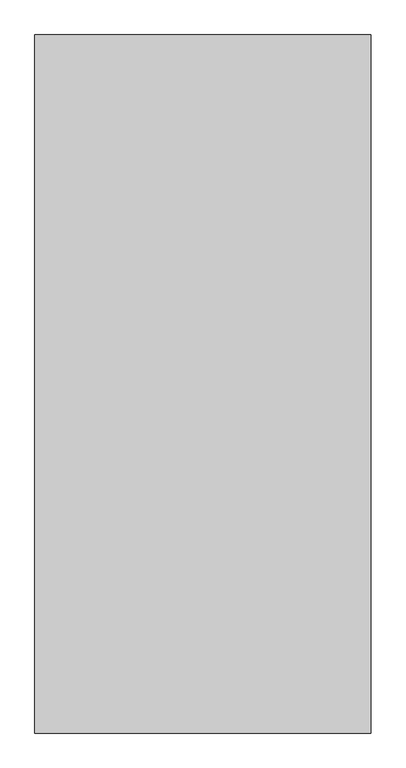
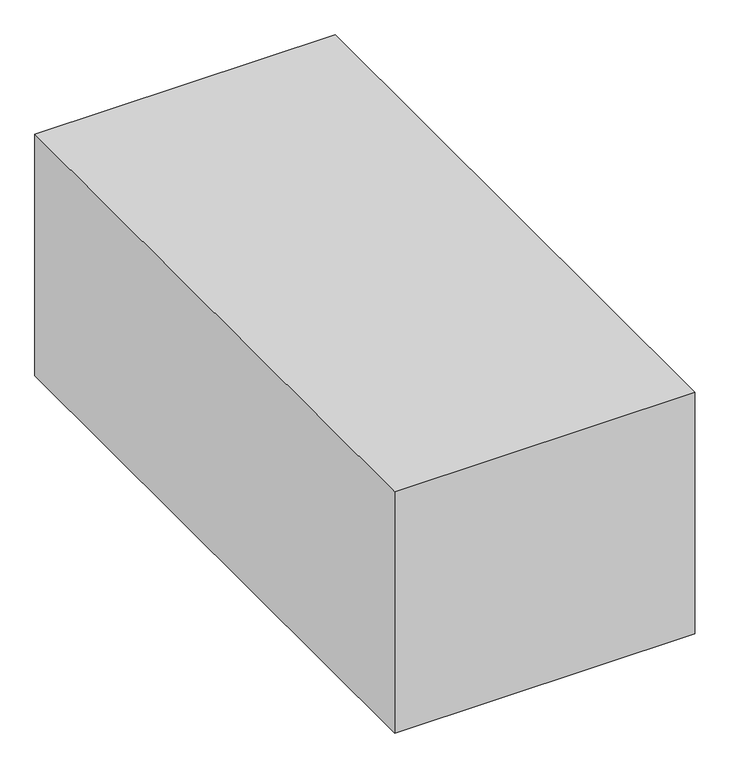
"""IFC4 building model written with IfcOpenShell, lengths in millimetres: proxy geometry, CU - Trane - 15-20 Ton : CU - Trane - 15-20 Ton."""

import ifcopenshell
import ifcopenshell.guid

model = None  # the IFC model being written
_history = None  # IfcOwnerHistory: only IFC2X3 demands one
_inside = {}  # id of a spatial element -> (the spatial element, [elements in it])
_under = {}  # id of a project, library or spatial element -> (it, [spatial elements below it])
_declared = {}  # id of a project -> (the project, [libraries it declares])
_typed = {}  # id of a type object -> (the type object, [elements of that type])
_made_of = {}  # id of a material, layer set ... -> (it, [elements and type objects made of it])


def new_model(schema):
    """Start an empty IFC model of exactly this schema.

    Asked for "IFC4X3", IfcOpenShell would pick the latest addendum, in which some entities
    have other attributes; the version numbers below select the first issue.
    IFC2X3 requires an IfcOwnerHistory on every rooted entity: one is made here for all.
    """
    global model, _history
    if schema == "IFC4X3":
        model = ifcopenshell.file(schema_version=(4, 3, 0, 0))
    else:
        model = ifcopenshell.file(schema=schema)
    _inside.clear()
    _under.clear()
    _declared.clear()
    _typed.clear()
    _made_of.clear()
    _history = None
    if model.schema == "IFC2X3":
        org = make("IfcOrganization", Name="unknown")
        user = make(
            "IfcPersonAndOrganization",
            ThePerson=make("IfcPerson", FamilyName="unknown"),
            TheOrganization=org,
        )
        app = make(
            "IfcApplication",
            ApplicationDeveloper=org,
            Version="unknown",
            ApplicationFullName="unknown",
            ApplicationIdentifier="unknown",
        )
        _history = make(
            "IfcOwnerHistory",
            OwningUser=user,
            OwningApplication=app,
            ChangeAction="ADDED",
            CreationDate=0,
        )
    return model


def make(cls, **values):
    """One entity of the class cls with the attributes given. An attribute that is None is left unset."""
    return model.create_entity(
        cls, **{name: value for name, value in values.items() if value is not None}
    )


def rooted(cls, **values):
    """An entity with a GlobalId (a new one), such as an element, a storey or a relation."""
    return make(cls, GlobalId=ifcopenshell.guid.new(), OwnerHistory=_history, **values)


def si_unit(unit_type, name, prefix=None):
    """IfcSIUnit, for example si_unit("LENGTHUNIT", "METRE", prefix="MILLI")."""
    return make("IfcSIUnit", UnitType=unit_type, Prefix=prefix, Name=name)


def assignment(units):
    """IfcUnitAssignment: the units of a project."""
    return None if units is None else make("IfcUnitAssignment", Units=units)


def point(xyz):
    """IfcCartesianPoint."""
    return None if xyz is None else make("IfcCartesianPoint", Coordinates=xyz)


def direction(xyz):
    """IfcDirection."""
    return None if xyz is None else make("IfcDirection", DirectionRatios=xyz)


def frame(location, z_axis=None, x_axis=None):
    """IfcAxis2Placement3D, a coordinate frame: its origin and axes. An axis left out is left unset."""
    return make(
        "IfcAxis2Placement3D",
        Location=point(location),
        Axis=direction(z_axis),
        RefDirection=direction(x_axis),
    )


def origin():
    """The frame at (0, 0, 0) with its axes left unset."""
    return frame((0.0, 0.0, 0.0))


def origin_with_axes():
    """The frame at (0, 0, 0) with the z axis (0, 0, 1) and the x axis (1, 0, 0) written out."""
    return frame((0.0, 0.0, 0.0), z_axis=(0.0, 0.0, 1.0), x_axis=(1.0, 0.0, 0.0))


def place(relative_to, where):
    """IfcLocalPlacement: puts the frame where relative to a parent placement (None: the world)."""
    return make(
        "IfcLocalPlacement", PlacementRelTo=relative_to, RelativePlacement=where
    )


def context(
    kind, dimensions, precision=None, world=None, true_north=None, identifier=None
):
    """IfcGeometricRepresentationContext, for example the 3D "Model" context."""
    return make(
        "IfcGeometricRepresentationContext",
        ContextIdentifier=identifier,
        ContextType=kind,
        CoordinateSpaceDimension=dimensions,
        Precision=precision,
        WorldCoordinateSystem=world,
        TrueNorth=true_north,
    )


def project(units=None, contexts=None):
    """IfcProject with its units and contexts."""
    return rooted(
        "IfcProject",
        Name="project",
        RepresentationContexts=contexts,
        UnitsInContext=assignment(units),
    )


def spatial(cls, under=None, at=None, **own):
    """A site, building, storey or space (cls), placed at a placement, below another one or the project."""
    s = rooted(cls, ObjectPlacement=at, **own)
    if under is not None:
        _under.setdefault(under.id(), (under, []))[1].append(s)
    return s


def polyline(points):
    """IfcPolyline through the points."""
    return make("IfcPolyline", Points=[point(p) for p in points])


def outline(outer, holes=None, kind="AREA"):
    """IfcArbitraryClosedProfileDef: a profile drawn as a closed curve; with holes, ...WithVoids."""
    if holes is None:
        return make("IfcArbitraryClosedProfileDef", ProfileType=kind, OuterCurve=outer)
    return make(
        "IfcArbitraryProfileDefWithVoids",
        ProfileType=kind,
        OuterCurve=outer,
        InnerCurves=holes,
    )


def extrude(swept, where, along, depth):
    """IfcExtrudedAreaSolid: the profile swept, set in the frame where, extruded along a direction by depth."""
    return make(
        "IfcExtrudedAreaSolid",
        SweptArea=swept,
        Position=where,
        ExtrudedDirection=direction(along),
        Depth=depth,
    )


def shape(context_of_items, identifier, shape_type, items):
    """IfcShapeRepresentation: the items that make up one representation, for example the "Body"."""
    return make(
        "IfcShapeRepresentation",
        ContextOfItems=context_of_items,
        RepresentationIdentifier=identifier,
        RepresentationType=shape_type,
        Items=items,
    )


def source(mapping_origin, context_of_items, identifier, shape_type, items):
    """IfcRepresentationMap: a shape defined once, which mapped items show again and again."""
    return make(
        "IfcRepresentationMap",
        MappingOrigin=mapping_origin,
        MappedRepresentation=shape(context_of_items, identifier, shape_type, items),
    )


def transform(
    local_origin,
    x_axis=None,
    y_axis=None,
    z_axis=None,
    scale=None,
    scale2=None,
    scale3=None,
    uniform=True,
):
    """IfcCartesianTransformationOperator3D, or its non-uniform kind. x_axis, y_axis, z_axis: its Axis1, 2, 3."""
    if uniform:
        return make(
            "IfcCartesianTransformationOperator3D",
            Axis1=direction(x_axis),
            Axis2=direction(y_axis),
            LocalOrigin=point(local_origin),
            Scale=scale,
            Axis3=direction(z_axis),
        )
    return make(
        "IfcCartesianTransformationOperator3DnonUniform",
        Axis1=direction(x_axis),
        Axis2=direction(y_axis),
        LocalOrigin=point(local_origin),
        Scale=scale,
        Axis3=direction(z_axis),
        Scale2=scale2,
        Scale3=scale3,
    )


def mapped(mapping_source, mapping_target):
    """IfcMappedItem: shows the shape of a source again, moved by a transform."""
    return make(
        "IfcMappedItem", MappingSource=mapping_source, MappingTarget=mapping_target
    )


def made_of(thing, what):
    """Note that an element or type object is made of a material, layer set ...; save() writes the relation."""
    if what is not None:
        _made_of.setdefault(what.id(), (what, []))[1].append(thing)
    return thing


def element(
    cls,
    number,
    at=None,
    inside=None,
    cuts=None,
    type_object=None,
    material=None,
    context=None,
    identifier="Body",
    shape_type=None,
    held_by="IfcProductDefinitionShape",
    body=None,
    shapes=None,
    **own,
):
    """One element of the class cls, such as IfcWall. Its Tag is "e" and its number.

    at: its placement. inside: the storey or other place that contains it. cuts: it is an
    opening in that element (IfcRelVoidsElement). A single representation is given by context,
    identifier, shape_type and body (its items); several are given by shapes. held_by: the class
    of the entity that holds the representations. save() writes the other relations.
    """
    e = rooted(cls, Tag="e%d" % number, ObjectPlacement=at, **own)
    if body is not None:
        shapes = [shape(context, identifier, shape_type, body)]
    if shapes is not None:
        e.Representation = make(held_by, Representations=shapes)
    if inside is not None:
        _inside.setdefault(inside.id(), (inside, []))[1].append(e)
    if cuts is not None:
        rooted(
            "IfcRelVoidsElement", RelatingBuildingElement=cuts, RelatedOpeningElement=e
        )
    if type_object is not None:
        _typed.setdefault(type_object.id(), (type_object, []))[1].append(e)
    return made_of(e, material)


def aggregate(whole, parts):
    """IfcRelAggregates: a whole, such as a stair, and the parts it consists of."""
    return rooted("IfcRelAggregates", RelatingObject=whole, RelatedObjects=parts)


def save(model, path):
    """Write the relations noted so far, then the file.

    IfcRelAggregates (storeys below a building ...), IfcRelContainedInSpatialStructure (elements
    in a storey), IfcRelDefinesByType, IfcRelAssociatesMaterial and IfcRelDeclares: one each for
    every whole, place, type object, material and project.
    """
    for whole, parts in _under.values():
        aggregate(whole, parts)
    for where, things in _inside.values():
        rooted(
            "IfcRelContainedInSpatialStructure",
            RelatedElements=things,
            RelatingStructure=where,
        )
    for kind, things in _typed.values():
        rooted("IfcRelDefinesByType", RelatedObjects=things, RelatingType=kind)
    for what, things in _made_of.values():
        rooted("IfcRelAssociatesMaterial", RelatedObjects=things, RelatingMaterial=what)
    for by, libraries in _declared.values():
        rooted("IfcRelDeclares", RelatingContext=by, RelatedDefinitions=libraries)
    model.write(path)


def mechanical_equipment_35da103f(model_context):
    return source(origin(), model_context, "Body", "SweptSolid", [
        extrude(outline(polyline([(584.2, 1212.05625), (584.2, -1212.05625), (-584.2, -1212.05625), (-584.2, 1212.05625), (584.2, 1212.05625)])), origin_with_axes(), (0.0, 0.0, 1.0), 993.775),
    ])


if __name__ == "__main__":
    model = new_model("IFC4")
    model_context = context("Model", 3, world=origin())
    ifc_project = project(units=[si_unit("LENGTHUNIT", "METRE", prefix="MILLI")], contexts=[model_context])
    site = spatial("IfcSite", under=ifc_project)
    building = spatial("IfcBuilding", under=site)
    placement = place(None, origin())
    mechanical_equipment_shape = mechanical_equipment_35da103f(model_context)
    element("IfcBuildingElementProxy", 1, Name="CU - Trane - 15-20 Ton : CU - Trane - 15-20 Ton", ObjectType="CU - Trane - 15-20 Ton : CU - Trane - 15-20 Ton", at=placement, inside=building, context=model_context, shape_type="MappedRepresentation", body=[
        mapped(mechanical_equipment_shape, transform((0.0, 0.0, 0.0), x_axis=(1.0, 0.0, 0.0), y_axis=(0.0, 1.0, 0.0), z_axis=(0.0, 0.0, 1.0))),
    ])
    save(model, "model.ifc")
